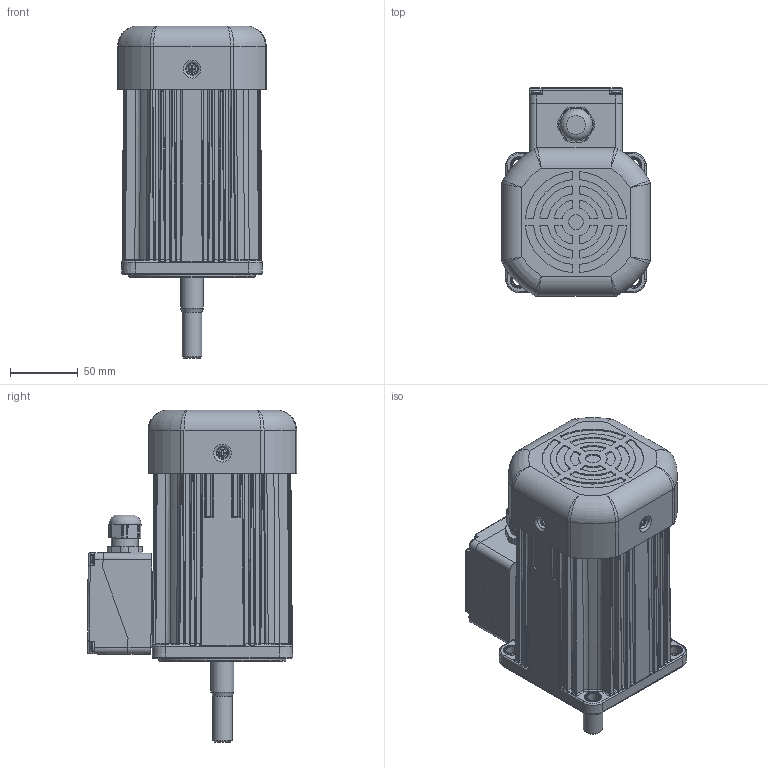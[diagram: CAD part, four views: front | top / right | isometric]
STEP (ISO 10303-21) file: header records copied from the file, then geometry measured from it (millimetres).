
FILE_DESCRIPTION (( 'STEP AP214' ), '1' );
FILE_NAME ('10IDG¤±-300FHC-T.STEP', '2025-01-13T02:42:04', ( '' ), ( '' ), 'SwSTEP 2.0', 'SolidWorks 2024', '' );
FILE_SCHEMA (( 'AUTOMOTIVE_DESIGN' ));
Length unit declared in the file: millimetre
Products named in the file (3): 10IDGㅁ-300FHC-T; 10IDGE-250FHC; TB8090
Assembly tree (2 placements, depth 2):
  10IDGㅁ-300FHC-T
    10IDGE-250FHC
    TB8090
Bounding box: 110 x 154.94 x 245.8 mm (x, y, z)
Volume: 1966615 mm3; surface area: 147422.7 mm2
Topology: 4 solids, 4 shells, 906 faces, 2314 edges, 1427 vertices
Faces by surface type: plane 387, cylinder 262, bspline 158, cone 80, torus 13, sphere 6
Full cylindrical faces by diameter (mm): 5.8 x4, 6.7 x4, 8 x4, 11 x1, 14.38 x1, 17 x1, 18 x1, 20 x1, 43 x1, 94 x1
Entity records: 48702 total; most frequent: CARTESIAN_POINT 28580, ORIENTED_EDGE 4386, DIRECTION 3729, EDGE_CURVE 2193, VERTEX_POINT 1406, AXIS2_PLACEMENT_3D 1307, LINE 1115, VECTOR 1115
